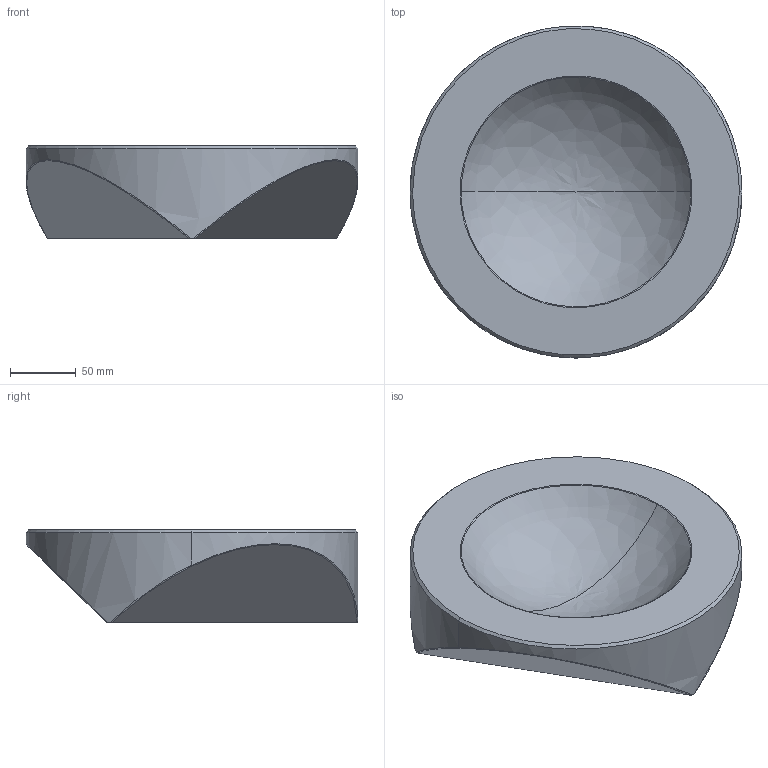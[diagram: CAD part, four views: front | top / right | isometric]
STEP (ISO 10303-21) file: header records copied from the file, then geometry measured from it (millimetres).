
FILE_DESCRIPTION(/* description */ (''),/* implementation_level */ '2;1');
FILE_NAME(/* name */ 'PAROS D1',/* time_stamp */ '2017-05-31T12:13:36+02:00',/* author */ (''),/* organization */ (''),/* preprocessor_version */ 'ST-DEVELOPER v10',/* originating_system */ '',/* authorisation */ '');
FILE_SCHEMA (('CONFIG_CONTROL_DESIGN'));
Length unit declared in the file: millimetre
Products named in the file (1): 1
Bounding box: 252 x 251.98 x 70 mm (x, y, z)
Volume: 2257084.5 mm3; surface area: 140897.6 mm2
Topology: 1 solids, 1 shells, 16 faces, 38 edges, 23 vertices
Faces by surface type: bspline 11, plane 5
Entity records: 1457 total; most frequent: CARTESIAN_POINT 1151, ORIENTED_EDGE 72, EDGE_CURVE 36, VERTEX_POINT 23, B_SPLINE_CURVE_WITH_KNOTS 18, EDGE_LOOP 17, ADVANCED_FACE 16, FACE_OUTER_BOUND 16
